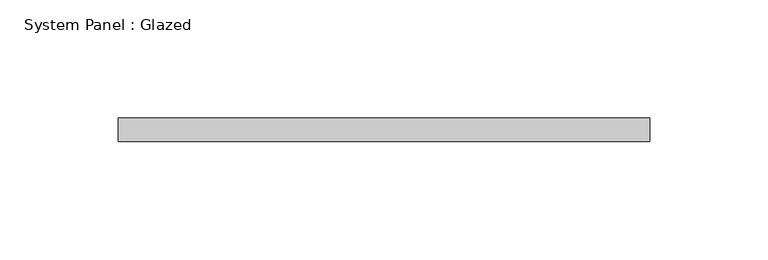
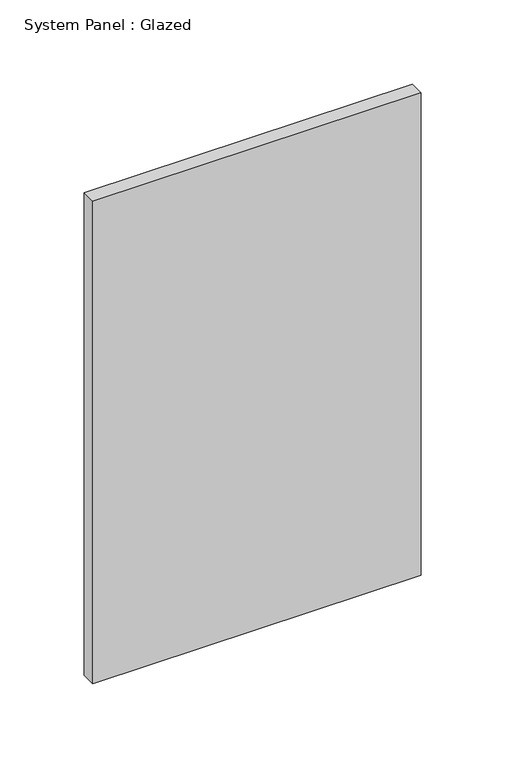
"""IFC4 building model written with IfcOpenShell, lengths in millimetres: plate geometry, System Panel : Glazed."""

from ifc_helpers import new_model, si_unit, origin, origin_with_axes, place, context, project, spatial, polyline, outline, extrude, source, transform, mapped, element, save


def system_panel_glazed_4b920c80(model_context):
    return source(origin(), model_context, "Body", "SweptSolid", [
        extrude(outline(polyline([(112.4999998, -5.0), (-112.4999998, -5.0), (-112.4999998, 5.0), (112.4999998, 5.0), (112.4999998, -5.0)])), origin_with_axes(), (0.0, 0.0, 1.0), 349.4373471),
    ])


if __name__ == "__main__":
    model = new_model("IFC4")
    model_context = context("Model", 3, world=origin())
    ifc_project = project(units=[si_unit("LENGTHUNIT", "METRE", prefix="MILLI")], contexts=[model_context])
    site = spatial("IfcSite", under=ifc_project)
    building = spatial("IfcBuilding", under=site)
    placement = place(None, origin())
    system_panel_glazed_shape = system_panel_glazed_4b920c80(model_context)
    element("IfcPlate", 1, ObjectType="System Panel : Glazed", at=placement, inside=building, context=model_context, shape_type="MappedRepresentation", body=[
        mapped(system_panel_glazed_shape, transform((0.0, 0.0, 0.0), x_axis=(1.0, 0.0, 0.0), y_axis=(0.0, 1.0, 0.0), z_axis=(0.0, 0.0, 1.0))),
    ])
    save(model, "model.ifc")
